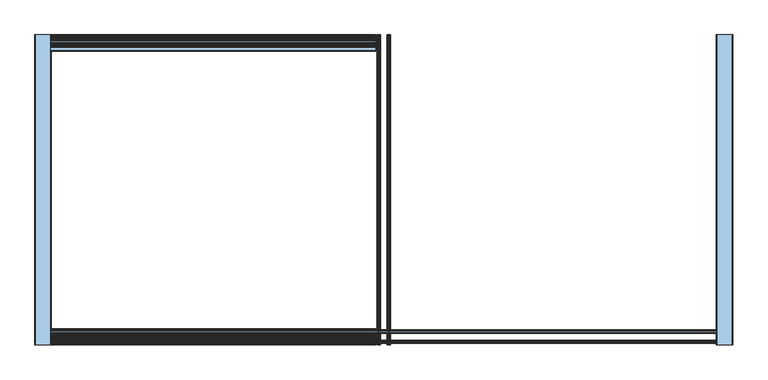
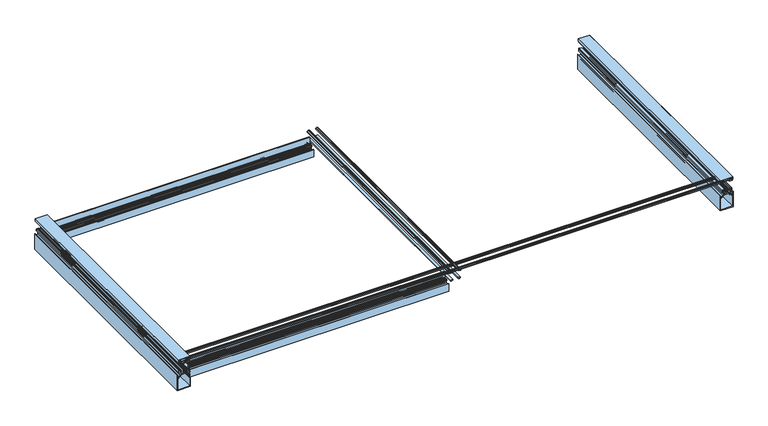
"""IFC4 building model written with IfcOpenShell, lengths in millimetres: window geometry, L&A_KlearSky_R19_GM_SingleSlope_LOD200 : KlearSky_Single Slope."""

from ifc_helpers import new_model, si_unit, point, frame, frame_2d, origin, place, context, project, spatial, polyline, circle_curve, trimmed, segment, composite_curve, outline, extrude, source, transform, mapped, element, save


def window_b780d06f(model_context):
    return source(origin(), model_context, "Body", "SweptSolid", [
        extrude(outline(composite_curve([segment(polyline([(-77.5967315, 4352.8876055), (-77.5967315, 4343.3626055), (-84.4116995, 4336.5476376)]), True, "CONTINUOUS"), segment(trimmed(circle_curve(frame_2d((-83.2891675, 4335.4251055)), 1.5875), [point((-84.4116995, 4336.5476376))], [point((-83.2891675, 4333.8376055))], True, "CARTESIAN"), True, "CONTINUOUS"), segment(polyline([(-83.2891675, 4333.8376055), (-73.2279315, 4333.8376055), (-73.2279315, 4340.1876055), (-71.2467315, 4340.1876055), (-71.2467315, 4302.0876055), (-134.7467315, 4302.0876055), (-134.7467315, 4340.1876055), (-132.7655315, 4340.1876055), (-132.7655315, 4333.8376055), (-115.6967315, 4333.8376055)]), True, "CONTINUOUS"), segment(trimmed(circle_curve(frame_2d((-115.6967315, 4337.0126055)), 3.175), [point((-115.6967315, 4333.8376055))], [point((-112.5217315, 4337.0126055))], True, "CARTESIAN"), True, "CONTINUOUS"), segment(polyline([(-112.5217315, 4337.0126055), (-109.3467315, 4340.1876055), (-109.3467315, 4344.9501055), (-117.2842315, 4344.9501055)]), True, "CONTINUOUS"), segment(trimmed(circle_curve(frame_2d((-117.2842315, 4346.5376055)), 1.5875), [point((-117.2842315, 4344.9501055))], [point((-118.8717315, 4346.5376055))], False, "CARTESIAN"), True, "CONTINUOUS"), segment(polyline([(-118.8717315, 4346.5376055), (-118.8717315, 4352.8876055), (-115.3792315, 4352.8876055)]), True, "CONTINUOUS"), segment(trimmed(circle_curve(frame_2d((-115.3792315, 4351.5858555)), 1.30175), [point((-115.3792315, 4352.8876055))], [point((-114.1092315, 4351.3001055))], False, "CARTESIAN"), True, "CONTINUOUS"), segment(polyline([(-114.1092315, 4351.3001055), (-115.6967315, 4351.3001055), (-115.6967315, 4348.1251055), (-109.3467315, 4348.1251055), (-109.3467315, 4351.3001055), (-110.9342315, 4351.3001055)]), True, "CONTINUOUS"), segment(trimmed(circle_curve(frame_2d((-109.6642315, 4351.5858555)), 1.30175), [point((-110.9342315, 4351.3001055))], [point((-109.6642315, 4352.8876055))], False, "CARTESIAN"), True, "CONTINUOUS"), segment(polyline([(-109.6642315, 4352.8876055), (-107.5433315, 4352.8876055), (-105.3131138, 4350.6573878), (-106.3037138, 4350.0854646), (-105.2777492, 4349.4931237), (-106.3037138, 4348.9007828), (-105.2777492, 4348.3084419), (-106.3037138, 4347.716101), (-105.2777492, 4347.1237601), (-106.3037138, 4346.5314192), (-105.2777492, 4345.9390783), (-106.3037138, 4345.3467374), (-105.2777492, 4344.7543965), (-106.3037138, 4344.1620556), (-105.2777492, 4343.5697147), (-106.3037138, 4342.9773738), (-105.2777492, 4342.3850329), (-106.3037138, 4341.792692), (-105.2777492, 4341.2003511), (-106.3037138, 4340.6080102), (-105.2777492, 4340.0156692), (-106.3037138, 4339.4233283), (-105.2777492, 4338.8309874), (-106.3037138, 4338.2386465), (-105.2777492, 4337.6463056), (-106.37535, 4337.0126055), (-107.7592315, 4337.0126055)]), True, "CONTINUOUS"), segment(trimmed(circle_curve(frame_2d((-107.7592315, 4335.4251055)), 1.5875), [point((-107.7592315, 4337.0126055))], [point((-107.7592315, 4333.8376055))], True, "CARTESIAN"), True, "CONTINUOUS"), segment(polyline([(-107.7592315, 4333.8376055), (-98.2342315, 4333.8376055)]), True, "CONTINUOUS"), segment(trimmed(circle_curve(frame_2d((-98.2342315, 4335.4251055)), 1.5875), [point((-98.2342315, 4333.8376055))], [point((-98.2342315, 4337.0126055))], True, "CARTESIAN"), True, "CONTINUOUS"), segment(polyline([(-98.2342315, 4337.0126055), (-99.8217315, 4337.0126055), (-99.8217315, 4337.7945933), (-100.7157138, 4338.2686056), (-99.6897492, 4338.8609465), (-100.7157138, 4339.4532874), (-99.6897492, 4340.0456283), (-100.7157138, 4340.6379692), (-99.6897492, 4341.2303102), (-100.7157138, 4341.8226511), (-99.6897492, 4342.414992), (-100.7157138, 4343.0073329), (-99.6897492, 4343.5996738), (-100.7157138, 4344.1920147), (-99.6897492, 4344.7843556), (-100.7157138, 4345.3766965), (-99.6897492, 4345.9690374), (-100.7157138, 4346.5613783), (-99.6897492, 4347.1537192), (-100.7157138, 4347.7460601), (-99.6897492, 4348.338401), (-100.7157138, 4348.9307419), (-99.6897492, 4349.5230828), (-100.7157138, 4350.1154237), (-99.6897492, 4350.7077646), (-100.6803492, 4351.2796878), (-99.8217315, 4352.1383055), (-99.8217315, 4382.9343213), (-96.6467315, 4382.9343213), (-96.6467315, 4340.1876055), (-93.4717315, 4337.0126055), (-93.4717315, 4333.8376055), (-88.7092315, 4333.8376055), (-88.7092315, 4336.7402336), (-83.2093916, 4342.2400735)]), True, "CONTINUOUS"), segment(trimmed(circle_curve(frame_2d((-84.3319236, 4343.3626055)), 1.5875), [point((-83.2093916, 4342.2400735))], [point((-84.3319236, 4344.9501055))], True, "CARTESIAN"), True, "CONTINUOUS"), segment(polyline([(-84.3319236, 4344.9501055), (-87.9142115, 4344.9501055)]), True, "CONTINUOUS"), segment(trimmed(circle_curve(frame_2d((-87.9142115, 4346.5376055)), 1.5875), [point((-87.9142115, 4344.9501055))], [point((-89.5017115, 4346.5376055))], False, "CARTESIAN"), True, "CONTINUOUS"), segment(polyline([(-89.5017115, 4346.5376055), (-89.5017115, 4351.3001055)]), True, "CONTINUOUS"), segment(trimmed(circle_curve(frame_2d((-87.9142115, 4351.3001055)), 1.5875), [point((-89.5017115, 4351.3001055))], [point((-87.9142115, 4352.8876055))], False, "CARTESIAN"), True, "CONTINUOUS"), segment(polyline([(-87.9142115, 4352.8876055), (-86.8042315, 4352.8876055)]), True, "CONTINUOUS"), segment(trimmed(circle_curve(frame_2d((-86.8042315, 4351.5858555)), 1.30175), [point((-86.8042315, 4352.8876055))], [point((-85.5342315, 4351.3001055))], False, "CARTESIAN"), True, "CONTINUOUS"), segment(polyline([(-85.5342315, 4351.3001055), (-87.1217315, 4351.3001055), (-87.1217315, 4348.1251055), (-80.7717315, 4348.1251055), (-80.7717315, 4351.3001055), (-82.3592315, 4351.3001055)]), True, "CONTINUOUS"), segment(trimmed(circle_curve(frame_2d((-81.0892315, 4351.5858555)), 1.30175), [point((-82.3592315, 4351.3001055))], [point((-81.0892315, 4352.8876055))], False, "CARTESIAN"), True, "CONTINUOUS"), segment(polyline([(-81.0892315, 4352.8876055), (-77.5967315, 4352.8876055)]), True, "CONTINUOUS")], self_intersect=False), holes=[polyline([(-74.4217315, 4305.2626055), (-74.4217315, 4330.6626055), (-131.5717315, 4330.6626055), (-131.5717315, 4305.2626055), (-74.4217315, 4305.2626055)])]), frame((-1362.5577575, 0.0, 0.0), z_axis=(1.0, 0.0, 0.0), x_axis=(0.0, 1.0, 0.0)), (0.0, 0.0, 1.0), 1281.90625),
        extrude(outline(composite_curve([segment(polyline([(-1233.2967315, 4352.8876055), (-1233.2967315, 4343.3626055), (-1240.1116995, 4336.5476376)]), True, "CONTINUOUS"), segment(trimmed(circle_curve(frame_2d((-1238.9891675, 4335.4251055)), 1.5875), [point((-1240.1116995, 4336.5476376))], [point((-1238.9891675, 4333.8376055))], True, "CARTESIAN"), True, "CONTINUOUS"), segment(polyline([(-1238.9891675, 4333.8376055), (-1228.9279315, 4333.8376055), (-1228.9279315, 4340.1876055), (-1226.9467315, 4340.1876055), (-1226.9467315, 4302.0876055), (-1290.4467315, 4302.0876055), (-1290.4467315, 4340.1876055), (-1288.4655315, 4340.1876055), (-1288.4655315, 4333.8376055), (-1271.3967315, 4333.8376055)]), True, "CONTINUOUS"), segment(trimmed(circle_curve(frame_2d((-1271.3967315, 4337.0126055)), 3.175), [point((-1271.3967315, 4333.8376055))], [point((-1268.2217315, 4337.0126055))], True, "CARTESIAN"), True, "CONTINUOUS"), segment(polyline([(-1268.2217315, 4337.0126055), (-1265.0467315, 4340.1876055), (-1265.0467315, 4344.9501055), (-1272.9842315, 4344.9501055)]), True, "CONTINUOUS"), segment(trimmed(circle_curve(frame_2d((-1272.9842315, 4346.5376055)), 1.5875), [point((-1272.9842315, 4344.9501055))], [point((-1274.5717315, 4346.5376055))], False, "CARTESIAN"), True, "CONTINUOUS"), segment(polyline([(-1274.5717315, 4346.5376055), (-1274.5717315, 4352.8876055), (-1271.0792315, 4352.8876055)]), True, "CONTINUOUS"), segment(trimmed(circle_curve(frame_2d((-1271.0792315, 4351.5858555)), 1.30175), [point((-1271.0792315, 4352.8876055))], [point((-1269.8092315, 4351.3001055))], False, "CARTESIAN"), True, "CONTINUOUS"), segment(polyline([(-1269.8092315, 4351.3001055), (-1271.3967315, 4351.3001055), (-1271.3967315, 4348.1251055), (-1265.0467315, 4348.1251055), (-1265.0467315, 4351.3001055), (-1266.6342315, 4351.3001055)]), True, "CONTINUOUS"), segment(trimmed(circle_curve(frame_2d((-1265.3642315, 4351.5858555)), 1.30175), [point((-1266.6342315, 4351.3001055))], [point((-1265.3642315, 4352.8876055))], False, "CARTESIAN"), True, "CONTINUOUS"), segment(polyline([(-1265.3642315, 4352.8876055), (-1263.2433315, 4352.8876055), (-1261.0131138, 4350.6573878), (-1262.0037138, 4350.0854646), (-1260.9777492, 4349.4931237), (-1262.0037138, 4348.9007828), (-1260.9777492, 4348.3084419), (-1262.0037138, 4347.716101), (-1260.9777492, 4347.1237601), (-1262.0037138, 4346.5314192), (-1260.9777492, 4345.9390783), (-1262.0037138, 4345.3467374), (-1260.9777492, 4344.7543965), (-1262.0037138, 4344.1620556), (-1260.9777492, 4343.5697147), (-1262.0037138, 4342.9773738), (-1260.9777492, 4342.3850329), (-1262.0037138, 4341.792692), (-1260.9777492, 4341.2003511), (-1262.0037138, 4340.6080102), (-1260.9777492, 4340.0156692), (-1262.0037138, 4339.4233283), (-1260.9777492, 4338.8309874), (-1262.0037138, 4338.2386465), (-1260.9777492, 4337.6463056), (-1262.07535, 4337.0126055), (-1263.4592315, 4337.0126055)]), True, "CONTINUOUS"), segment(trimmed(circle_curve(frame_2d((-1263.4592315, 4335.4251055)), 1.5875), [point((-1263.4592315, 4337.0126055))], [point((-1263.4592315, 4333.8376055))], True, "CARTESIAN"), True, "CONTINUOUS"), segment(polyline([(-1263.4592315, 4333.8376055), (-1253.9342315, 4333.8376055)]), True, "CONTINUOUS"), segment(trimmed(circle_curve(frame_2d((-1253.9342315, 4335.4251055)), 1.5875), [point((-1253.9342315, 4333.8376055))], [point((-1253.9342315, 4337.0126055))], True, "CARTESIAN"), True, "CONTINUOUS"), segment(polyline([(-1253.9342315, 4337.0126055), (-1255.5217315, 4337.0126055), (-1255.5217315, 4337.7945933), (-1256.4157138, 4338.2686056), (-1255.3897492, 4338.8609465), (-1256.4157138, 4339.4532874), (-1255.3897492, 4340.0456283), (-1256.4157138, 4340.6379692), (-1255.3897492, 4341.2303102), (-1256.4157138, 4341.8226511), (-1255.3897492, 4342.414992), (-1256.4157138, 4343.0073329), (-1255.3897492, 4343.5996738), (-1256.4157138, 4344.1920147), (-1255.3897492, 4344.7843556), (-1256.4157138, 4345.3766965), (-1255.3897492, 4345.9690374), (-1256.4157138, 4346.5613783), (-1255.3897492, 4347.1537192), (-1256.4157138, 4347.7460601), (-1255.3897492, 4348.338401), (-1256.4157138, 4348.9307419), (-1255.3897492, 4349.5230828), (-1256.4157138, 4350.1154237), (-1255.3897492, 4350.7077646), (-1256.3803492, 4351.2796878), (-1255.5217315, 4352.1383055), (-1255.5217315, 4382.9343213), (-1252.3467315, 4382.9343213), (-1252.3467315, 4340.1876055), (-1249.1717315, 4337.0126055), (-1249.1717315, 4333.8376055), (-1244.4092315, 4333.8376055), (-1244.4092315, 4336.7402336), (-1238.9093916, 4342.2400735)]), True, "CONTINUOUS"), segment(trimmed(circle_curve(frame_2d((-1240.0319236, 4343.3626055)), 1.5875), [point((-1238.9093916, 4342.2400735))], [point((-1240.0319236, 4344.9501055))], True, "CARTESIAN"), True, "CONTINUOUS"), segment(polyline([(-1240.0319236, 4344.9501055), (-1243.6142115, 4344.9501055)]), True, "CONTINUOUS"), segment(trimmed(circle_curve(frame_2d((-1243.6142115, 4346.5376055)), 1.5875), [point((-1243.6142115, 4344.9501055))], [point((-1245.2017115, 4346.5376055))], False, "CARTESIAN"), True, "CONTINUOUS"), segment(polyline([(-1245.2017115, 4346.5376055), (-1245.2017115, 4351.3001055)]), True, "CONTINUOUS"), segment(trimmed(circle_curve(frame_2d((-1243.6142115, 4351.3001055)), 1.5875), [point((-1245.2017115, 4351.3001055))], [point((-1243.6142115, 4352.8876055))], False, "CARTESIAN"), True, "CONTINUOUS"), segment(polyline([(-1243.6142115, 4352.8876055), (-1242.5042315, 4352.8876055)]), True, "CONTINUOUS"), segment(trimmed(circle_curve(frame_2d((-1242.5042315, 4351.5858555)), 1.30175), [point((-1242.5042315, 4352.8876055))], [point((-1241.2342315, 4351.3001055))], False, "CARTESIAN"), True, "CONTINUOUS"), segment(polyline([(-1241.2342315, 4351.3001055), (-1242.8217315, 4351.3001055), (-1242.8217315, 4348.1251055), (-1236.4717315, 4348.1251055), (-1236.4717315, 4351.3001055), (-1238.0592315, 4351.3001055)]), True, "CONTINUOUS"), segment(trimmed(circle_curve(frame_2d((-1236.7892315, 4351.5858555)), 1.30175), [point((-1238.0592315, 4351.3001055))], [point((-1236.7892315, 4352.8876055))], False, "CARTESIAN"), True, "CONTINUOUS"), segment(polyline([(-1236.7892315, 4352.8876055), (-1233.2967315, 4352.8876055)]), True, "CONTINUOUS")], self_intersect=False), holes=[polyline([(-1230.1217315, 4305.2626055), (-1230.1217315, 4330.6626055), (-1287.2717315, 4330.6626055), (-1287.2717315, 4305.2626055), (-1230.1217315, 4305.2626055)])]), frame((-1362.5577575, 0.0, 0.0), z_axis=(1.0, 0.0, 0.0), x_axis=(0.0, 1.0, 0.0)), (0.0, 0.0, 1.0), 1281.90625),
        extrude(outline(polyline([(-1232.1557159, 4391.1997055), (-1244.8557159, 4391.1997055), (-1244.8557159, 4395.9749055), (-1239.9027159, 4395.9749055), (-1239.3947159, 4397.9592805), (-1240.9187159, 4397.9592805), (-1240.9187159, 4398.7689055), (-1238.5057159, 4399.6579055), (-1236.0927159, 4398.7689055), (-1236.0927159, 4397.9592805), (-1237.6167159, 4397.9592805), (-1237.1087159, 4395.9749055), (-1232.1557159, 4395.9749055), (-1232.1557159, 4391.1997055)])), frame((-1362.5577575, 0.0, 0.0), z_axis=(1.0, 0.0, 0.0), x_axis=(0.0, 1.0, 0.0)), (0.0, 0.0, 1.0), 2627.3),
        extrude(outline(polyline([(-1272.5377471, 4391.1997055), (-1285.2377471, 4391.1997055), (-1285.2377471, 4395.9749055), (-1280.2847471, 4395.9749055), (-1279.7767471, 4397.9592805), (-1281.3007471, 4397.9592805), (-1281.3007471, 4398.7689055), (-1278.8877471, 4399.6579055), (-1276.4747471, 4398.7689055), (-1276.4747471, 4397.9592805), (-1277.9987471, 4397.9592805), (-1277.4907471, 4395.9749055), (-1272.5377471, 4395.9749055), (-1272.5377471, 4391.1997055)])), frame((-1362.5577575, 0.0, 0.0), z_axis=(1.0, 0.0, 0.0), x_axis=(0.0, 1.0, 0.0)), (0.0, 0.0, 1.0), 2627.3),
        extrude(outline(polyline([(4391.1997055, -22.3667419), (4395.9749055, -22.3667419), (4395.9749055, -27.3197419), (4397.9592805, -27.8277419), (4397.9592805, -26.3037419), (4398.7689055, -26.3037419), (4399.6579055, -28.7167419), (4398.7689055, -31.1297419), (4397.9592805, -31.1297419), (4397.9592805, -29.6057419), (4395.9749055, -30.1137419), (4395.9749055, -35.0667419), (4391.1997055, -35.0667419), (4391.1997055, -22.3667419)])), frame((0.0, -1290.4467315, 0.0), z_axis=(0.0, 1.0, 0.0), x_axis=(0.0, 0.0, 1.0)), (0.0, 0.0, 1.0), 1219.2),
        extrude(outline(polyline([(4391.1997055, -62.7487731), (4395.9749055, -62.7487731), (4395.9749055, -67.7017731), (4397.9592805, -68.2097731), (4397.9592805, -66.6857731), (4398.7689055, -66.6857731), (4399.6579055, -69.0987731), (4398.7689055, -71.5117731), (4397.9592805, -71.5117731), (4397.9592805, -69.9877731), (4395.9749055, -70.4957731), (4395.9749055, -75.4487731), (4391.1997055, -75.4487731), (4391.1997055, -62.7487731)])), frame((0.0, -1290.4467315, 0.0), z_axis=(0.0, 1.0, 0.0), x_axis=(0.0, 0.0, 1.0)), (0.0, 0.0, 1.0), 1219.2),
        extrude(outline(polyline([(4357.8876055, -23.5077575), (4357.8876055, -36.2077575), (4353.1124055, -36.2077575), (4353.1124055, -31.2547575), (4351.1280305, -30.7467575), (4351.1280305, -32.2707575), (4350.3184055, -32.2707575), (4349.4294055, -29.8577575), (4350.3184055, -27.4447575), (4351.1280305, -27.4447575), (4351.1280305, -28.9687575), (4353.1124055, -28.4607575), (4353.1124055, -23.5077575), (4357.8876055, -23.5077575)])), frame((0.0, -1290.4467315, 0.0), z_axis=(0.0, 1.0, 0.0), x_axis=(0.0, 0.0, 1.0)), (0.0, 0.0, 1.0), 1219.2),
        extrude(outline(polyline([(4357.8876055, -61.6077575), (4357.8876055, -74.3077575), (4353.1124055, -74.3077575), (4353.1124055, -69.3547575), (4351.1280305, -68.8467575), (4351.1280305, -70.3707575), (4350.3184055, -70.3707575), (4349.4294055, -67.9577575), (4350.3184055, -65.5447575), (4351.1280305, -65.5447575), (4351.1280305, -67.0687575), (4353.1124055, -66.5607575), (4353.1124055, -61.6077575), (4357.8876055, -61.6077575)])), frame((0.0, -1290.4467315, 0.0), z_axis=(0.0, 1.0, 0.0), x_axis=(0.0, 0.0, 1.0)), (0.0, 0.0, 1.0), 1219.2),
        extrude(outline(polyline([(4357.8876055, 1278.2422425), (4357.8876055, 1265.5422425), (4353.1124055, 1265.5422425), (4353.1124055, 1270.4952425), (4351.1280305, 1271.0032425), (4351.1280305, 1269.4792425), (4350.3184055, 1269.4792425), (4349.4294055, 1271.8922425), (4350.3184055, 1274.3052425), (4351.1280305, 1274.3052425), (4351.1280305, 1272.7812425), (4353.1124055, 1273.2892425), (4353.1124055, 1278.2422425), (4357.8876055, 1278.2422425)])), frame((0.0, -1290.4467315, 0.0), z_axis=(0.0, 1.0, 0.0), x_axis=(0.0, 0.0, 1.0)), (0.0, 0.0, 1.0), 1219.2),
        extrude(outline(polyline([(4391.1997055, 1317.4832581), (4395.9749055, 1317.4832581), (4395.9749055, 1312.5302581), (4397.9592805, 1312.0222581), (4397.9592805, 1313.5462581), (4398.7689055, 1313.5462581), (4399.6579055, 1311.1332581), (4398.7689055, 1308.7202581), (4397.9592805, 1308.7202581), (4397.9592805, 1310.2442581), (4395.9749055, 1309.7362581), (4395.9749055, 1304.7832581), (4391.1997055, 1304.7832581), (4391.1997055, 1317.4832581)])), frame((0.0, -1290.4467315, 0.0), z_axis=(0.0, 1.0, 0.0), x_axis=(0.0, 0.0, 1.0)), (0.0, 0.0, 1.0), 1219.2),
        extrude(outline(polyline([(4391.1997055, 1277.1012269), (4395.9749055, 1277.1012269), (4395.9749055, 1272.1482269), (4397.9592805, 1271.6402269), (4397.9592805, 1273.1642269), (4398.7689055, 1273.1642269), (4399.6579055, 1270.7512269), (4398.7689055, 1268.3382269), (4397.9592805, 1268.3382269), (4397.9592805, 1269.8622269), (4395.9749055, 1269.3542269), (4395.9749055, 1264.4012269), (4391.1997055, 1264.4012269), (4391.1997055, 1277.1012269)])), frame((0.0, -1290.4467315, 0.0), z_axis=(0.0, 1.0, 0.0), x_axis=(0.0, 0.0, 1.0)), (0.0, 0.0, 1.0), 1219.2),
        extrude(outline(polyline([(4391.1997055, -1362.2167419), (4395.9749055, -1362.2167419), (4395.9749055, -1367.1697419), (4397.9592805, -1367.6777419), (4397.9592805, -1366.1537419), (4398.7689055, -1366.1537419), (4399.6579055, -1368.5667419), (4398.7689055, -1370.9797419), (4397.9592805, -1370.9797419), (4397.9592805, -1369.4557419), (4395.9749055, -1369.9637419), (4395.9749055, -1374.9167419), (4391.1997055, -1374.9167419), (4391.1997055, -1362.2167419)])), frame((0.0, -1290.4467315, 0.0), z_axis=(0.0, 1.0, 0.0), x_axis=(0.0, 0.0, 1.0)), (0.0, 0.0, 1.0), 1219.2),
        extrude(outline(polyline([(4391.1997055, -1402.5987731), (4395.9749055, -1402.5987731), (4395.9749055, -1407.5517731), (4397.9592805, -1408.0597731), (4397.9592805, -1406.5357731), (4398.7689055, -1406.5357731), (4399.6579055, -1408.9487731), (4398.7689055, -1411.3617731), (4397.9592805, -1411.3617731), (4397.9592805, -1409.8377731), (4395.9749055, -1410.3457731), (4395.9749055, -1415.2987731), (4391.1997055, -1415.2987731), (4391.1997055, -1402.5987731)])), frame((0.0, -1290.4467315, 0.0), z_axis=(0.0, 1.0, 0.0), x_axis=(0.0, 0.0, 1.0)), (0.0, 0.0, 1.0), 1219.2),
        extrude(outline(polyline([(4357.8876055, -1363.3577575), (4357.8876055, -1376.0577575), (4353.1124055, -1376.0577575), (4353.1124055, -1371.1047575), (4351.1280305, -1370.5967575), (4351.1280305, -1372.1207575), (4350.3184055, -1372.1207575), (4349.4294055, -1369.7077575), (4350.3184055, -1367.2947575), (4351.1280305, -1367.2947575), (4351.1280305, -1368.8187575), (4353.1124055, -1368.3107575), (4353.1124055, -1363.3577575), (4357.8876055, -1363.3577575)])), frame((0.0, -1290.4467315, 0.0), z_axis=(0.0, 1.0, 0.0), x_axis=(0.0, 0.0, 1.0)), (0.0, 0.0, 1.0), 1219.2),
        extrude(outline(polyline([(4401.3552675, 1264.823353), (4401.3552675, 1263.6372425), (4403.9700471, 1263.6372425), (4403.9700471, 1265.2479297), (4405.3670471, 1265.2479297), (4405.3670471, 1263.6372425), (4407.4074664, 1263.6372425), (4407.4074664, 1318.2472425), (4405.3670471, 1318.2472425), (4405.3670471, 1316.6365553), (4403.9700471, 1316.6365553), (4403.9700471, 1318.2472425), (4401.3552675, 1318.2472425), (4401.3552675, 1317.061132), (4395.9774664, 1319.0184916), (4395.9774664, 1319.8061329), (4408.8044664, 1319.8061329), (4408.8044664, 1262.0783521), (4395.9774664, 1262.0783521), (4395.9774664, 1262.8659935), (4401.3552675, 1264.823353)])), frame((0.0, -1290.4467315, 0.0), z_axis=(0.0, 1.0, 0.0), x_axis=(0.0, 0.0, 1.0)), (0.0, 0.0, 1.0), 1219.2),
        extrude(outline(composite_curve([segment(trimmed(circle_curve(frame_2d((4397.2464786, 1308.2711468)), 1.271373), [point((4395.9751055, 1308.2711468))], [point((4397.2464786, 1309.5425198))], False, "CARTESIAN"), True, "CONTINUOUS"), segment(polyline([(4397.2464786, 1309.5425198), (4397.2464786, 1307.9658768), (4399.9455098, 1307.9658768), (4399.9455098, 1314.3158768), (4397.2466105, 1314.3158768), (4397.2466105, 1312.7334307)]), True, "CONTINUOUS"), segment(trimmed(circle_curve(frame_2d((4397.2466105, 1314.0025748)), 1.2691441), [point((4397.2466105, 1312.7334307))], [point((4395.9774664, 1314.0025748))], False, "CARTESIAN"), True, "CONTINUOUS"), segment(polyline([(4395.9774664, 1314.0025748), (4395.9774664, 1319.0133253), (4401.8126345, 1316.8894978), (4401.8126345, 1318.0736085), (4403.59401, 1317.4185791), (4403.59401, 1314.6460813), (4402.333983, 1315.1046936), (4402.333983, 1306.7411664), (4399.945698, 1304.3528814), (4399.1501055, 1304.3528814), (4399.1501055, 1277.5316037), (4399.945698, 1277.5316037), (4402.333983, 1275.1433187), (4402.333983, 1266.7797914), (4403.59401, 1267.2384037), (4403.59401, 1264.4659059), (4401.8126345, 1263.8108766), (4401.8126345, 1264.9949872), (4395.9774664, 1262.8711597), (4395.9774664, 1267.8819102)]), True, "CONTINUOUS"), segment(trimmed(circle_curve(frame_2d((4397.2466105, 1267.8819102)), 1.2691441), [point((4395.9774664, 1267.8819102))], [point((4397.2466105, 1269.1510543))], False, "CARTESIAN"), True, "CONTINUOUS"), segment(polyline([(4397.2466105, 1269.1510543), (4397.2466105, 1267.5686083), (4399.9455098, 1267.5686083), (4399.9455098, 1273.9186083), (4397.2464786, 1273.9186083), (4397.2464786, 1272.3419652)]), True, "CONTINUOUS"), segment(trimmed(circle_curve(frame_2d((4397.2464786, 1273.6133383)), 1.271373), [point((4397.2464786, 1272.3419652))], [point((4395.9751055, 1273.6133383))], False, "CARTESIAN"), True, "CONTINUOUS"), segment(polyline([(4395.9751055, 1273.6133383), (4395.9751055, 1308.2711468)]), True, "CONTINUOUS")], self_intersect=False)), frame((0.0, -1290.4467315, 0.0), z_axis=(0.0, 1.0, 0.0), x_axis=(0.0, 0.0, 1.0)), (0.0, 0.0, 1.0), 1219.2),
        extrude(outline(composite_curve([segment(polyline([(4251.516, 1322.6922425), (4330.9041461, 1322.6922425), (4330.9041461, 1321.908793), (4327.7170266, 1320.3116327), (4324.5428947, 1320.3116327), (4324.5428947, 1308.401806), (4335.6514853, 1308.401806), (4343.6041242, 1316.354445), (4353.1251055, 1316.354445), (4353.1251055, 1312.8537325)]), True, "CONTINUOUS"), segment(trimmed(circle_curve(frame_2d((4351.8115438, 1312.8537325)), 1.3135617), [point((4353.1251055, 1312.8537325))], [point((4351.5291279, 1311.5708897))], False, "CARTESIAN"), True, "CONTINUOUS"), segment(polyline([(4351.5291279, 1311.5708897), (4351.5291279, 1313.1567662), (4348.3573749, 1313.1567662), (4348.3573749, 1306.8067662), (4351.5291279, 1306.8067662), (4351.5291279, 1308.4014902)]), True, "CONTINUOUS"), segment(trimmed(circle_curve(frame_2d((4351.8605458, 1307.188269)), 1.2576738), [point((4351.5291279, 1308.4014902))], [point((4353.1182196, 1307.188269))], False, "CARTESIAN"), True, "CONTINUOUS"), segment(polyline([(4353.1182196, 1307.188269), (4353.1182196, 1305.9585669)]), True, "CONTINUOUS"), segment(trimmed(circle_curve(frame_2d((4351.5984072, 1305.9585669)), 1.5198125), [point((4353.1182196, 1305.9585669))], [point((4351.5291279, 1304.4403343))], False, "CARTESIAN"), True, "CONTINUOUS"), segment(polyline([(4351.5291279, 1304.4403343), (4346.6033287, 1304.4403343)]), True, "CONTINUOUS"), segment(trimmed(circle_curve(frame_2d((4346.6033287, 1305.8563604)), 1.4160261), [point((4346.6033287, 1304.4403343))], [point((4345.1873026, 1305.8563604))], False, "CARTESIAN"), True, "CONTINUOUS"), segment(polyline([(4345.1873026, 1305.8563604), (4345.1873026, 1309.560333)]), True, "CONTINUOUS"), segment(trimmed(circle_curve(frame_2d((4343.5742926, 1309.560333)), 1.61301), [point((4345.1873026, 1309.560333))], [point((4342.4437347, 1310.7108285))], True, "CARTESIAN"), True, "CONTINUOUS"), segment(polyline([(4342.4437347, 1310.7108285), (4336.9624441, 1305.2295379), (4330.8940861, 1305.2295379), (4330.8940861, 1297.2880209), (4351.707721, 1297.2880209)]), True, "CONTINUOUS"), segment(trimmed(circle_curve(frame_2d((4351.707721, 1295.8255415)), 1.4624793), [point((4351.707721, 1297.2880209))], [point((4353.1267585, 1295.4717357))], False, "CARTESIAN"), True, "CONTINUOUS"), segment(polyline([(4353.1267585, 1295.4717357), (4350.9063037, 1293.3552686), (4350.3158738, 1294.1109844), (4349.725444, 1293.3552686), (4349.1350141, 1294.1109844), (4348.5445842, 1293.3552686), (4347.9541543, 1294.1109844), (4347.3637245, 1293.3552686), (4346.7732946, 1294.1109844), (4346.1828647, 1293.3552686), (4345.5924348, 1294.1109844), (4345.002005, 1293.3552686), (4344.4115751, 1294.1109844), (4343.8211452, 1293.3552686), (4343.2307153, 1294.1109844), (4342.6402854, 1293.3552686), (4342.0498556, 1294.1109844), (4341.4594257, 1293.3552686), (4340.8689958, 1294.1109844), (4340.2785659, 1293.3552686), (4339.6881361, 1294.1109844), (4339.0977062, 1293.3552686), (4338.5072763, 1294.1109844), (4337.9168464, 1293.3552686), (4337.3264166, 1294.1109844), (4334.0661773, 1294.1109844), (4334.0661773, 1287.7735007), (4337.3264166, 1287.7735007), (4337.9168464, 1288.5292164), (4338.5072763, 1287.7735007), (4339.0977062, 1288.5292164), (4339.6881361, 1287.7735007), (4340.2785659, 1288.5292164), (4340.8689958, 1287.7735007), (4341.4594257, 1288.5292164), (4342.0498556, 1287.7735007), (4342.6402854, 1288.5292164), (4343.2307153, 1287.7735007), (4343.8211452, 1288.5292164), (4344.4115751, 1287.7735007), (4345.002005, 1288.5292164), (4345.5924348, 1287.7735007), (4346.1828647, 1288.5292164), (4346.7732946, 1287.7735007), (4347.3637245, 1288.5292164), (4347.9541543, 1287.7735007), (4348.5445842, 1288.5292164), (4349.1350141, 1287.7735007), (4349.725444, 1288.5292164), (4350.3158738, 1287.7735007), (4350.9063037, 1288.5292164), (4353.1267585, 1286.4127493)]), True, "CONTINUOUS"), segment(trimmed(circle_curve(frame_2d((4351.707721, 1286.0589435)), 1.4624793), [point((4353.1267585, 1286.4127493))], [point((4351.707721, 1284.5964642))], False, "CARTESIAN"), True, "CONTINUOUS"), segment(polyline([(4351.707721, 1284.5964642), (4330.8940861, 1284.5964642), (4330.8940861, 1276.6549471), (4336.9624441, 1276.6549471), (4342.4437347, 1271.1736565)]), True, "CONTINUOUS"), segment(trimmed(circle_curve(frame_2d((4343.5742926, 1272.324152)), 1.61301), [point((4342.4437347, 1271.1736565))], [point((4345.1873026, 1272.324152))], True, "CARTESIAN"), True, "CONTINUOUS"), segment(polyline([(4345.1873026, 1272.324152), (4345.1873026, 1276.0281246)]), True, "CONTINUOUS"), segment(trimmed(circle_curve(frame_2d((4346.6033287, 1276.0281246)), 1.4160261), [point((4345.1873026, 1276.0281246))], [point((4346.6033287, 1277.4441507))], False, "CARTESIAN"), True, "CONTINUOUS"), segment(polyline([(4346.6033287, 1277.4441507), (4351.5291279, 1277.4441507)]), True, "CONTINUOUS"), segment(trimmed(circle_curve(frame_2d((4351.5984072, 1275.9259181)), 1.5198125), [point((4351.5291279, 1277.4441507))], [point((4353.1182196, 1275.9259181))], False, "CARTESIAN"), True, "CONTINUOUS"), segment(polyline([(4353.1182196, 1275.9259181), (4353.1182196, 1274.696216)]), True, "CONTINUOUS"), segment(trimmed(circle_curve(frame_2d((4351.8605458, 1274.696216)), 1.2576738), [point((4353.1182196, 1274.696216))], [point((4351.5291279, 1273.4829948))], False, "CARTESIAN"), True, "CONTINUOUS"), segment(polyline([(4351.5291279, 1273.4829948), (4351.5291279, 1275.0777188), (4348.3573749, 1275.0777188), (4348.3573749, 1268.7277188), (4351.5291279, 1268.7277188), (4351.5291279, 1270.3135954)]), True, "CONTINUOUS"), segment(trimmed(circle_curve(frame_2d((4351.8115438, 1269.0307526)), 1.3135617), [point((4351.5291279, 1270.3135954))], [point((4353.1251055, 1269.0307526))], False, "CARTESIAN"), True, "CONTINUOUS"), segment(polyline([(4353.1251055, 1269.0307526), (4353.1251055, 1265.5300401), (4343.6041242, 1265.5300401), (4335.6514853, 1273.482679), (4324.5428947, 1273.482679), (4324.5428947, 1261.5728523), (4327.7170266, 1261.5728523), (4330.9041461, 1259.975692), (4330.9041461, 1259.1922425), (4251.516, 1259.1922425), (4251.516, 1322.6922425)]), True, "CONTINUOUS")], self_intersect=False), holes=[composite_curve([segment(trimmed(circle_curve(frame_2d((4313.0272313, 1263.1609925)), 0.79375), [point((4313.0272313, 1262.3672425))], [point((4313.7678249, 1263.4465799))], True, "CARTESIAN"), True, "CONTINUOUS"), segment(trimmed(circle_curve(frame_2d((4317.6544602, 1264.9453425)), 4.1656), [point((4313.7678249, 1263.4465799))], [point((4313.5028905, 1264.60374))], False, "CARTESIAN"), True, "CONTINUOUS"), segment(trimmed(circle_curve(frame_2d((4314.293967, 1264.668832)), 0.79375), [point((4313.5028905, 1264.60374))], [point((4315.0850436, 1264.7339239))], False, "CARTESIAN"), True, "CONTINUOUS"), segment(trimmed(circle_curve(frame_2d((4317.6544602, 1264.9453425)), 2.5781), [point((4315.0850436, 1264.7339239))], [point((4317.8658788, 1267.5147591))], True, "CARTESIAN"), True, "CONTINUOUS"), segment(trimmed(circle_curve(frame_2d((4317.9309708, 1268.3058357)), 0.79375), [point((4317.8658788, 1267.5147591))], [point((4317.9960627, 1269.0969122))], False, "CARTESIAN"), True, "CONTINUOUS"), segment(trimmed(circle_curve(frame_2d((4317.6544602, 1264.9453425)), 4.1656), [point((4317.9960627, 1269.0969122))], [point((4319.1532228, 1268.8319778))], False, "CARTESIAN"), True, "CONTINUOUS"), segment(trimmed(circle_curve(frame_2d((4319.4388102, 1269.5725714)), 0.79375), [point((4319.1532228, 1268.8319778))], [point((4320.2325602, 1269.5725714))], True, "CARTESIAN"), True, "CONTINUOUS"), segment(polyline([(4320.2325602, 1269.5725714), (4320.2325602, 1275.0672425)]), True, "CONTINUOUS"), segment(trimmed(circle_curve(frame_2d((4321.8200602, 1275.0672425)), 1.5875), [point((4320.2325602, 1275.0672425))], [point((4321.8200602, 1276.6547425))], False, "CARTESIAN"), True, "CONTINUOUS"), segment(polyline([(4321.8200602, 1276.6547425), (4327.716, 1276.6547425), (4327.716, 1305.2297425), (4321.8200602, 1305.2297425)]), True, "CONTINUOUS"), segment(trimmed(circle_curve(frame_2d((4321.8200602, 1306.8172425)), 1.5875), [point((4321.8200602, 1305.2297425))], [point((4320.2325602, 1306.8172425))], False, "CARTESIAN"), True, "CONTINUOUS"), segment(polyline([(4320.2325602, 1306.8172425), (4320.2325602, 1312.3119136)]), True, "CONTINUOUS"), segment(trimmed(circle_curve(frame_2d((4319.4388102, 1312.3119136)), 0.79375), [point((4320.2325602, 1312.3119136))], [point((4319.1532228, 1313.0525072))], True, "CARTESIAN"), True, "CONTINUOUS"), segment(trimmed(circle_curve(frame_2d((4317.6544602, 1316.9391425)), 4.1656), [point((4319.1532228, 1313.0525072))], [point((4317.9960627, 1312.7875728))], False, "CARTESIAN"), True, "CONTINUOUS"), segment(trimmed(circle_curve(frame_2d((4317.9309708, 1313.5786493)), 0.79375), [point((4317.9960627, 1312.7875728))], [point((4317.8658788, 1314.3697259))], False, "CARTESIAN"), True, "CONTINUOUS"), segment(trimmed(circle_curve(frame_2d((4317.6544602, 1316.9391425)), 2.5781), [point((4317.8658788, 1314.3697259))], [point((4315.0850436, 1317.1505611))], True, "CARTESIAN"), True, "CONTINUOUS"), segment(trimmed(circle_curve(frame_2d((4314.293967, 1317.2156531)), 0.79375), [point((4315.0850436, 1317.1505611))], [point((4313.5028905, 1317.280745))], False, "CARTESIAN"), True, "CONTINUOUS"), segment(trimmed(circle_curve(frame_2d((4317.6544602, 1316.9391425)), 4.1656), [point((4313.5028905, 1317.280745))], [point((4313.7678249, 1318.4379051))], False, "CARTESIAN"), True, "CONTINUOUS"), segment(trimmed(circle_curve(frame_2d((4313.0272313, 1318.7234925)), 0.79375), [point((4313.7678249, 1318.4379051))], [point((4313.0272313, 1319.5172425))], True, "CARTESIAN"), True, "CONTINUOUS"), segment(polyline([(4313.0272313, 1319.5172425), (4256.2785, 1319.5172425), (4256.2785, 1262.3672425), (4313.0272313, 1262.3672425)]), True, "CONTINUOUS")], self_intersect=False)]), frame((0.0, -1290.4467315, 0.0), z_axis=(0.0, 1.0, 0.0), x_axis=(0.0, 0.0, 1.0)), (0.0, 0.0, 1.0), 1219.2),
        extrude(outline(polyline([(4401.3552675, -1414.876647), (4401.3552675, -1416.0627575), (4403.9700471, -1416.0627575), (4403.9700471, -1414.4520703), (4405.3670471, -1414.4520703), (4405.3670471, -1416.0627575), (4407.4074664, -1416.0627575), (4407.4074664, -1361.4527575), (4405.3670471, -1361.4527575), (4405.3670471, -1363.0634447), (4403.9700471, -1363.0634447), (4403.9700471, -1361.4527575), (4401.3552675, -1361.4527575), (4401.3552675, -1362.638868), (4395.9774664, -1360.6815084), (4395.9774664, -1359.8938671), (4408.8044664, -1359.8938671), (4408.8044664, -1417.6216479), (4395.9774664, -1417.6216479), (4395.9774664, -1416.8340065), (4401.3552675, -1414.876647)])), frame((0.0, -1290.4467315, 0.0), z_axis=(0.0, 1.0, 0.0), x_axis=(0.0, 0.0, 1.0)), (0.0, 0.0, 1.0), 1219.2),
        extrude(outline(composite_curve([segment(trimmed(circle_curve(frame_2d((4397.2464786, -1371.4288532)), 1.271373), [point((4395.9751055, -1371.4288532))], [point((4397.2464786, -1370.1574802))], False, "CARTESIAN"), True, "CONTINUOUS"), segment(polyline([(4397.2464786, -1370.1574802), (4397.2464786, -1371.7341232), (4399.9455098, -1371.7341232), (4399.9455098, -1365.3841232), (4397.2466105, -1365.3841232), (4397.2466105, -1366.9665693)]), True, "CONTINUOUS"), segment(trimmed(circle_curve(frame_2d((4397.2466105, -1365.6974252)), 1.2691441), [point((4397.2466105, -1366.9665693))], [point((4395.9774664, -1365.6974252))], False, "CARTESIAN"), True, "CONTINUOUS"), segment(polyline([(4395.9774664, -1365.6974252), (4395.9774664, -1360.6866747), (4401.8126345, -1362.8105022), (4401.8126345, -1361.6263915), (4403.59401, -1362.2814209), (4403.59401, -1365.0539187), (4402.333983, -1364.5953064), (4402.333983, -1372.9588336), (4399.945698, -1375.3471186), (4399.1501055, -1375.3471186), (4399.1501055, -1402.1683963), (4399.945698, -1402.1683963), (4402.333983, -1404.5566813), (4402.333983, -1412.9202086), (4403.59401, -1412.4615963), (4403.59401, -1415.2340941), (4401.8126345, -1415.8891234), (4401.8126345, -1414.7050128), (4395.9774664, -1416.8288403), (4395.9774664, -1411.8180898)]), True, "CONTINUOUS"), segment(trimmed(circle_curve(frame_2d((4397.2466105, -1411.8180898)), 1.2691441), [point((4395.9774664, -1411.8180898))], [point((4397.2466105, -1410.5489457))], False, "CARTESIAN"), True, "CONTINUOUS"), segment(polyline([(4397.2466105, -1410.5489457), (4397.2466105, -1412.1313917), (4399.9455098, -1412.1313917), (4399.9455098, -1405.7813917), (4397.2464786, -1405.7813917), (4397.2464786, -1407.3580348)]), True, "CONTINUOUS"), segment(trimmed(circle_curve(frame_2d((4397.2464786, -1406.0866617)), 1.271373), [point((4397.2464786, -1407.3580348))], [point((4395.9751055, -1406.0866617))], False, "CARTESIAN"), True, "CONTINUOUS"), segment(polyline([(4395.9751055, -1406.0866617), (4395.9751055, -1371.4288532)]), True, "CONTINUOUS")], self_intersect=False)), frame((0.0, -1290.4467315, 0.0), z_axis=(0.0, 1.0, 0.0), x_axis=(0.0, 0.0, 1.0)), (0.0, 0.0, 1.0), 1219.2),
        extrude(outline(composite_curve([segment(polyline([(4251.516, -1357.0077575), (4330.9041461, -1357.0077575), (4330.9041461, -1357.791207), (4327.7170266, -1359.3883673), (4324.5428947, -1359.3883673), (4324.5428947, -1371.298194), (4335.6514853, -1371.298194), (4343.6041242, -1363.345555), (4353.1251055, -1363.345555), (4353.1251055, -1366.8462675)]), True, "CONTINUOUS"), segment(trimmed(circle_curve(frame_2d((4351.8115438, -1366.8462675)), 1.3135617), [point((4353.1251055, -1366.8462675))], [point((4351.5291279, -1368.1291103))], False, "CARTESIAN"), True, "CONTINUOUS"), segment(polyline([(4351.5291279, -1368.1291103), (4351.5291279, -1366.5432338), (4348.3573749, -1366.5432338), (4348.3573749, -1372.8932338), (4351.5291279, -1372.8932338), (4351.5291279, -1371.2985098)]), True, "CONTINUOUS"), segment(trimmed(circle_curve(frame_2d((4351.8605458, -1372.511731)), 1.2576738), [point((4351.5291279, -1371.2985098))], [point((4353.1182196, -1372.511731))], False, "CARTESIAN"), True, "CONTINUOUS"), segment(polyline([(4353.1182196, -1372.511731), (4353.1182196, -1373.7414331)]), True, "CONTINUOUS"), segment(trimmed(circle_curve(frame_2d((4351.5984072, -1373.7414331)), 1.5198125), [point((4353.1182196, -1373.7414331))], [point((4351.5291279, -1375.2596657))], False, "CARTESIAN"), True, "CONTINUOUS"), segment(polyline([(4351.5291279, -1375.2596657), (4346.6033287, -1375.2596657)]), True, "CONTINUOUS"), segment(trimmed(circle_curve(frame_2d((4346.6033287, -1373.8436396)), 1.4160261), [point((4346.6033287, -1375.2596657))], [point((4345.1873026, -1373.8436396))], False, "CARTESIAN"), True, "CONTINUOUS"), segment(polyline([(4345.1873026, -1373.8436396), (4345.1873026, -1370.139667)]), True, "CONTINUOUS"), segment(trimmed(circle_curve(frame_2d((4343.5742926, -1370.139667)), 1.61301), [point((4345.1873026, -1370.139667))], [point((4342.4437347, -1368.9891715))], True, "CARTESIAN"), True, "CONTINUOUS"), segment(polyline([(4342.4437347, -1368.9891715), (4336.9624441, -1374.4704621), (4330.8940861, -1374.4704621), (4330.8940861, -1382.4119791), (4351.707721, -1382.4119791)]), True, "CONTINUOUS"), segment(trimmed(circle_curve(frame_2d((4351.707721, -1383.8744585)), 1.4624793), [point((4351.707721, -1382.4119791))], [point((4353.1267585, -1384.2282643))], False, "CARTESIAN"), True, "CONTINUOUS"), segment(polyline([(4353.1267585, -1384.2282643), (4350.9063037, -1386.3447314), (4350.3158738, -1385.5890156), (4349.725444, -1386.3447314), (4349.1350141, -1385.5890156), (4348.5445842, -1386.3447314), (4347.9541543, -1385.5890156), (4347.3637245, -1386.3447314), (4346.7732946, -1385.5890156), (4346.1828647, -1386.3447314), (4345.5924348, -1385.5890156), (4345.002005, -1386.3447314), (4344.4115751, -1385.5890156), (4343.8211452, -1386.3447314), (4343.2307153, -1385.5890156), (4342.6402854, -1386.3447314), (4342.0498556, -1385.5890156), (4341.4594257, -1386.3447314), (4340.8689958, -1385.5890156), (4340.2785659, -1386.3447314), (4339.6881361, -1385.5890156), (4339.0977062, -1386.3447314), (4338.5072763, -1385.5890156), (4337.9168464, -1386.3447314), (4337.3264166, -1385.5890156), (4334.0661773, -1385.5890156), (4334.0661773, -1391.9264993), (4337.3264166, -1391.9264993), (4337.9168464, -1391.1707836), (4338.5072763, -1391.9264993), (4339.0977062, -1391.1707836), (4339.6881361, -1391.9264993), (4340.2785659, -1391.1707836), (4340.8689958, -1391.9264993), (4341.4594257, -1391.1707836), (4342.0498556, -1391.9264993), (4342.6402854, -1391.1707836), (4343.2307153, -1391.9264993), (4343.8211452, -1391.1707836), (4344.4115751, -1391.9264993), (4345.002005, -1391.1707836), (4345.5924348, -1391.9264993), (4346.1828647, -1391.1707836), (4346.7732946, -1391.9264993), (4347.3637245, -1391.1707836), (4347.9541543, -1391.9264993), (4348.5445842, -1391.1707836), (4349.1350141, -1391.9264993), (4349.725444, -1391.1707836), (4350.3158738, -1391.9264993), (4350.9063037, -1391.1707836), (4353.1267585, -1393.2872507)]), True, "CONTINUOUS"), segment(trimmed(circle_curve(frame_2d((4351.707721, -1393.6410565)), 1.4624793), [point((4353.1267585, -1393.2872507))], [point((4351.707721, -1395.1035358))], False, "CARTESIAN"), True, "CONTINUOUS"), segment(polyline([(4351.707721, -1395.1035358), (4330.8940861, -1395.1035358), (4330.8940861, -1403.0450529), (4336.9624441, -1403.0450529), (4342.4437347, -1408.5263435)]), True, "CONTINUOUS"), segment(trimmed(circle_curve(frame_2d((4343.5742926, -1407.375848)), 1.61301), [point((4342.4437347, -1408.5263435))], [point((4345.1873026, -1407.375848))], True, "CARTESIAN"), True, "CONTINUOUS"), segment(polyline([(4345.1873026, -1407.375848), (4345.1873026, -1403.6718754)]), True, "CONTINUOUS"), segment(trimmed(circle_curve(frame_2d((4346.6033287, -1403.6718754)), 1.4160261), [point((4345.1873026, -1403.6718754))], [point((4346.6033287, -1402.2558493))], False, "CARTESIAN"), True, "CONTINUOUS"), segment(polyline([(4346.6033287, -1402.2558493), (4351.5291279, -1402.2558493)]), True, "CONTINUOUS"), segment(trimmed(circle_curve(frame_2d((4351.5984072, -1403.7740819)), 1.5198125), [point((4351.5291279, -1402.2558493))], [point((4353.1182196, -1403.7740819))], False, "CARTESIAN"), True, "CONTINUOUS"), segment(polyline([(4353.1182196, -1403.7740819), (4353.1182196, -1405.003784)]), True, "CONTINUOUS"), segment(trimmed(circle_curve(frame_2d((4351.8605458, -1405.003784)), 1.2576738), [point((4353.1182196, -1405.003784))], [point((4351.5291279, -1406.2170052))], False, "CARTESIAN"), True, "CONTINUOUS"), segment(polyline([(4351.5291279, -1406.2170052), (4351.5291279, -1404.6222812), (4348.3573749, -1404.6222812), (4348.3573749, -1410.9722812), (4351.5291279, -1410.9722812), (4351.5291279, -1409.3864046)]), True, "CONTINUOUS"), segment(trimmed(circle_curve(frame_2d((4351.8115438, -1410.6692474)), 1.3135617), [point((4351.5291279, -1409.3864046))], [point((4353.1251055, -1410.6692474))], False, "CARTESIAN"), True, "CONTINUOUS"), segment(polyline([(4353.1251055, -1410.6692474), (4353.1251055, -1414.1699599), (4343.6041242, -1414.1699599), (4335.6514853, -1406.217321), (4324.5428947, -1406.217321), (4324.5428947, -1418.1271477), (4327.7170266, -1418.1271477), (4330.9041461, -1419.724308), (4330.9041461, -1420.5077575), (4251.516, -1420.5077575), (4251.516, -1357.0077575)]), True, "CONTINUOUS")], self_intersect=False), holes=[composite_curve([segment(trimmed(circle_curve(frame_2d((4313.0272313, -1416.5390075)), 0.79375), [point((4313.0272313, -1417.3327575))], [point((4313.7678249, -1416.2534201))], True, "CARTESIAN"), True, "CONTINUOUS"), segment(trimmed(circle_curve(frame_2d((4317.6544602, -1414.7546575)), 4.1656), [point((4313.7678249, -1416.2534201))], [point((4313.5028905, -1415.09626))], False, "CARTESIAN"), True, "CONTINUOUS"), segment(trimmed(circle_curve(frame_2d((4314.293967, -1415.031168)), 0.79375), [point((4313.5028905, -1415.09626))], [point((4315.0850436, -1414.9660761))], False, "CARTESIAN"), True, "CONTINUOUS"), segment(trimmed(circle_curve(frame_2d((4317.6544602, -1414.7546575)), 2.5781), [point((4315.0850436, -1414.9660761))], [point((4317.8658788, -1412.1852409))], True, "CARTESIAN"), True, "CONTINUOUS"), segment(trimmed(circle_curve(frame_2d((4317.9309708, -1411.3941643)), 0.79375), [point((4317.8658788, -1412.1852409))], [point((4317.9960627, -1410.6030878))], False, "CARTESIAN"), True, "CONTINUOUS"), segment(trimmed(circle_curve(frame_2d((4317.6544602, -1414.7546575)), 4.1656), [point((4317.9960627, -1410.6030878))], [point((4319.1532228, -1410.8680222))], False, "CARTESIAN"), True, "CONTINUOUS"), segment(trimmed(circle_curve(frame_2d((4319.4388102, -1410.1274286)), 0.79375), [point((4319.1532228, -1410.8680222))], [point((4320.2325602, -1410.1274286))], True, "CARTESIAN"), True, "CONTINUOUS"), segment(polyline([(4320.2325602, -1410.1274286), (4320.2325602, -1404.6327575)]), True, "CONTINUOUS"), segment(trimmed(circle_curve(frame_2d((4321.8200602, -1404.6327575)), 1.5875), [point((4320.2325602, -1404.6327575))], [point((4321.8200602, -1403.0452575))], False, "CARTESIAN"), True, "CONTINUOUS"), segment(polyline([(4321.8200602, -1403.0452575), (4327.716, -1403.0452575), (4327.716, -1374.4702575), (4321.8200602, -1374.4702575)]), True, "CONTINUOUS"), segment(trimmed(circle_curve(frame_2d((4321.8200602, -1372.8827575)), 1.5875), [point((4321.8200602, -1374.4702575))], [point((4320.2325602, -1372.8827575))], False, "CARTESIAN"), True, "CONTINUOUS"), segment(polyline([(4320.2325602, -1372.8827575), (4320.2325602, -1367.3880864)]), True, "CONTINUOUS"), segment(trimmed(circle_curve(frame_2d((4319.4388102, -1367.3880864)), 0.79375), [point((4320.2325602, -1367.3880864))], [point((4319.1532228, -1366.6474928))], True, "CARTESIAN"), True, "CONTINUOUS"), segment(trimmed(circle_curve(frame_2d((4317.6544602, -1362.7608575)), 4.1656), [point((4319.1532228, -1366.6474928))], [point((4317.9960627, -1366.9124272))], False, "CARTESIAN"), True, "CONTINUOUS"), segment(trimmed(circle_curve(frame_2d((4317.9309708, -1366.1213507)), 0.79375), [point((4317.9960627, -1366.9124272))], [point((4317.8658788, -1365.3302741))], False, "CARTESIAN"), True, "CONTINUOUS"), segment(trimmed(circle_curve(frame_2d((4317.6544602, -1362.7608575)), 2.5781), [point((4317.8658788, -1365.3302741))], [point((4315.0850436, -1362.5494389))], True, "CARTESIAN"), True, "CONTINUOUS"), segment(trimmed(circle_curve(frame_2d((4314.293967, -1362.4843469)), 0.79375), [point((4315.0850436, -1362.5494389))], [point((4313.5028905, -1362.419255))], False, "CARTESIAN"), True, "CONTINUOUS"), segment(trimmed(circle_curve(frame_2d((4317.6544602, -1362.7608575)), 4.1656), [point((4313.5028905, -1362.419255))], [point((4313.7678249, -1361.2620949))], False, "CARTESIAN"), True, "CONTINUOUS"), segment(trimmed(circle_curve(frame_2d((4313.0272313, -1360.9765075)), 0.79375), [point((4313.7678249, -1361.2620949))], [point((4313.0272313, -1360.1827575))], True, "CARTESIAN"), True, "CONTINUOUS"), segment(polyline([(4313.0272313, -1360.1827575), (4256.2785, -1360.1827575), (4256.2785, -1417.3327575), (4313.0272313, -1417.3327575)]), True, "CONTINUOUS")], self_intersect=False)]), frame((0.0, -1290.4467315, 0.0), z_axis=(0.0, 1.0, 0.0), x_axis=(0.0, 0.0, 1.0)), (0.0, 0.0, 1.0), 1219.2),
    ])


if __name__ == "__main__":
    model = new_model("IFC4")
    model_context = context("Model", 3, world=origin())
    ifc_project = project(units=[si_unit("LENGTHUNIT", "METRE", prefix="MILLI")], contexts=[model_context])
    site = spatial("IfcSite", under=ifc_project)
    building = spatial("IfcBuilding", under=site)
    placement = place(None, origin())
    window_shape = window_b780d06f(model_context)
    element("IfcWindow", 1, ObjectType="L&A_KlearSky_R19_GM_SingleSlope_LOD200 : KlearSky_Single Slope", at=placement, inside=building, context=model_context, shape_type="MappedRepresentation", body=[
        mapped(window_shape, transform((0.0, 0.0, 0.0), x_axis=(1.0, 0.0, 0.0), y_axis=(0.0, 1.0, 0.0), z_axis=(0.0, 0.0, 1.0))),
    ])
    save(model, "model.ifc")
